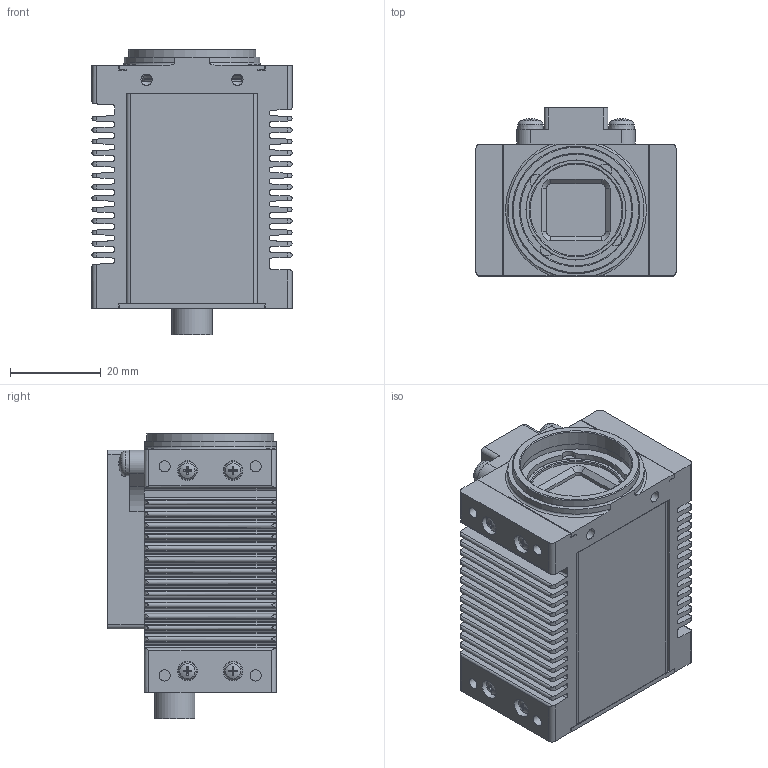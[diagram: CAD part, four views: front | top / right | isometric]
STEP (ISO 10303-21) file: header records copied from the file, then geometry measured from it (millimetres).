
FILE_DESCRIPTION(/* description */ (''),/* implementation_level */ '2;1');
FILE_NAME(/* name */ 'D:\HiDrive\1_Konstruktion\1_KUNDEN\TIS\139-12_135-12_124-11_121-11_FPGA-Kamera\121-15-5_FPGA-Kam-RJ45_1Z-Sens_13,3_Kühlrippen\IPT und STEP Ableitungen für Kunden\121-15-50\121-15-50_FPGA_CS-FP_RJ45_1Zoll_13,3_ER-6,7_Kühlrip.stp',/* time_stamp */ '2017-10-20T17:37:40+02:00',/* author */ ('khw'),/* organization */ (''),/* preprocessor_version */ 'ST-DEVELOPER v16.5',/* originating_system */ 'Autodesk Inventor 2017',/* authorisation */ '');
FILE_SCHEMA (('AUTOMOTIVE_DESIGN { 1 0 10303 214 3 1 1 }'));
Length unit declared in the file: millimetre
Products named in the file (4): 3_121-15-50_FPGA_CS-FP_RJ45_1Zoll_13,3_ER-6,7_m.Trip; 2_121-15-50_FPGA_CS-FP_RJ45_1Zoll_13,3_ER-6,7_Ableit v.1; 121-11-2-00-02(TripodAdapter); ISO 7045 - M3 x 6 - 4.8 - H
Assembly tree (5 placements, depth 2):
  3_121-15-50_FPGA_CS-FP_RJ45_1Zoll_13,3_ER-6,7_m.Trip
    2_121-15-50_FPGA_CS-FP_RJ45_1Zoll_13,3_ER-6,7_Ableit v.1
    121-11-2-00-02(TripodAdapter)
    ISO 7045 - M3 x 6 - 4.8 - H  x3
Bounding box: 44 x 37 x 62.85 mm (x, y, z)
Volume: 33349.9 mm3; surface area: 35828.7 mm2
Topology: 6 solids, 24 shells, 1410 faces, 3843 edges, 2521 vertices
Faces by surface type: plane 669, cylinder 393, cone 233, torus 82, sphere 19, bspline 14
Full cylindrical faces by diameter (mm): 0.45 x8, 0.6 x6, 0.8 x6, 1 x1, 1.183 x4, 1.221 x2, 1.567 x18, 1.755 x4, 1.783 x8, 2 x8, 2.2 x4, 2.3 x8, 2.4 x2, 2.459 x13, 2.729 x3, 3 x3, 3.3 x3, 3.5 x4, 3.8 x4, 4.3 x8, 4.917 x2, 4.978 x1, 6 x1, 7.76 x1, 8.85 x1, 11 x1, 12 x1, 20.2 x1, 21.9 x1, 22 x2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
Entity records: 44350 total; most frequent: CARTESIAN_POINT 9742, DIRECTION 7006, ORIENTED_EDGE 6714, EDGE_CURVE 3357, AXIS2_PLACEMENT_3D 2654, VERTEX_POINT 2326, LINE 1698, VECTOR 1698
